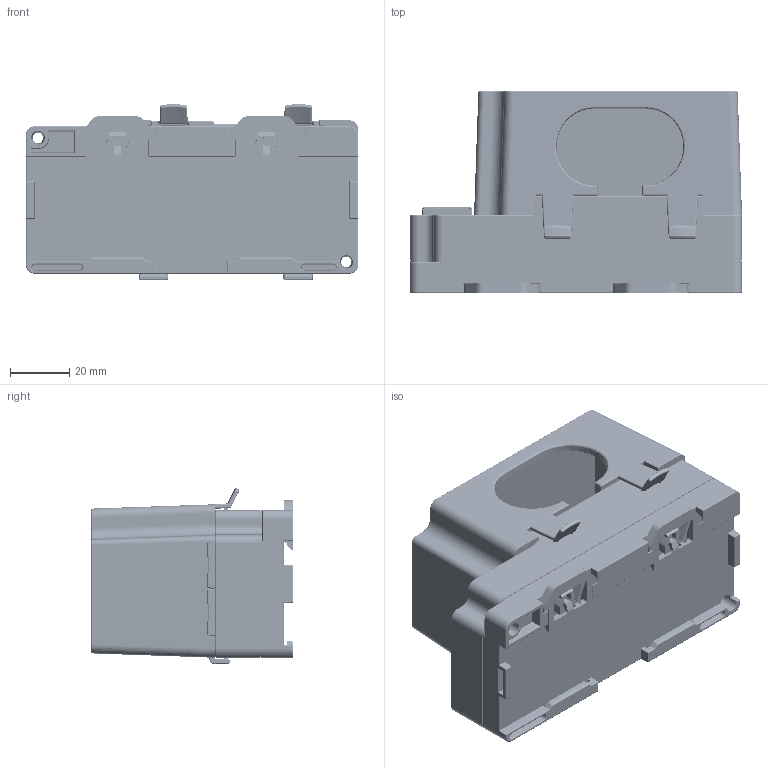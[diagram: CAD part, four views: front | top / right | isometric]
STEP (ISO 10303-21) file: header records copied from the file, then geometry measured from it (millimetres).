
FILE_DESCRIPTION((''),'2;1');
FILE_NAME('XBF5-16CH_ASM_ASM','2026-05-27T10:25:48',('Administrator'),(''),'CREO PARAMETRIC BY PTC INC, 2022073','CREO PARAMETRIC BY PTC INC, 2022073','');
FILE_SCHEMA(('CONFIG_CONTROL_DESIGN'));
Products named in the file (541): SH870-16-1_20_1; SH870-16-2_18_1; SH870-16-3_7_1; SH870-16_ASM_10_ASM_1_ASM; OPEN_CASCADE_STEP_TRANSLATO-282; BOARD_ASM_1_ASM; SEVS38103003N_1; J1_ASM_1_ASM; HOUSING_1; COVER_1; BASE_1; POLARITY_MARK_1; 150060BS75000_0603_ASM_1_ASM; D1_ASM_1_ASM; MER-16_1; SW1_ASM_1_ASM; R_0603_1_1; R_0603_2_1; R_0603_3_1; R_0603_4_1; R_0603_ASM_1_ASM; R25_ASM_1_ASM; R24_ASM_1_ASM; R23_ASM_1_ASM; R_0402_1_1; R_0402_2_1; R_0402_3_1; R_0402_4_1; R_0402_ASM_1_ASM; R22_ASM_1_ASM; R21_ASM_1_ASM; R20_ASM_1_ASM; R19_ASM_1_ASM; R18_ASM_1_ASM; R17_ASM_1_ASM; R16_ASM_1_ASM; R15_ASM_1_ASM; R14_ASM_1_ASM; R13_ASM_1_ASM; R12_ASM_1_ASM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
Assembly tree (1168 placements, depth 8):
  XBF5-16CH_ASM_ASM
    12-9SH870-16_ASM_ASM_1_ASM
      SH870-16_ASM_10_ASM_1_ASM
        SH870-16-1_20_1
        SH870-16-2_18_1
        SH870-16-3_7_1
      D5224_0_0_3D_ASM_1_ASM
        PCB_ASM_1_ASM
          BOARD_ASM_1_ASM
            OPEN_CASCADE_STEP_TRANSLATO-282
          J1_ASM_1_ASM
            SEVS38103003N_1  x8
          D1_ASM_1_ASM
            150060BS75000_0603_ASM_1_ASM
              HOUSING_1
              COVER_1
              BASE_1  x2
              POLARITY_MARK_1
          SW1_ASM_1_ASM
            MER-16_1
          R25_ASM_1_ASM
            R_0603_ASM_1_ASM
              R_0603_1_1
              R_0603_2_1
              R_0603_3_1
              R_0603_4_1
          R24_ASM_1_ASM
            R_0603_ASM_1_ASM
              R_0603_1_1
              R_0603_2_1
              R_0603_3_1
              R_0603_4_1
          R23_ASM_1_ASM
            R_0603_ASM_1_ASM
              R_0603_1_1
              R_0603_2_1
              R_0603_3_1
              R_0603_4_1
          R22_ASM_1_ASM
            R_0402_ASM_1_ASM
              R_0402_1_1
              R_0402_2_1
              R_0402_3_1
              R_0402_4_1
          R21_ASM_1_ASM
            R_0402_ASM_1_ASM
              R_0402_1_1
              R_0402_2_1
              R_0402_3_1
              R_0402_4_1
          R20_ASM_1_ASM
            R_0603_ASM_1_ASM
              R_0603_1_1
              R_0603_2_1
              R_0603_3_1
              R_0603_4_1
          R19_ASM_1_ASM
            R_0603_ASM_1_ASM
              R_0603_1_1
              R_0603_2_1
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Bounding box: 112.5 x 68.5 x 59.56 mm (x, y, z)
Volume: 104393 mm3; surface area: 144286.7 mm2
Topology: 1677 solids, 1765 shells, 58381 faces, 155251 edges, 100376 vertices
Faces by surface type: plane 34434, extrusion 10870, cylinder 8720, sphere 2268, bspline 1252, torus 476, cone 361
Entity records: 408368 total; most frequent: CARTESIAN_POINT 165116, ORIENTED_EDGE 48650, DIRECTION 48327, EDGE_CURVE 24375, VECTOR 17067, LINE 16442, VERTEX_POINT 15869, AXIS2_PLACEMENT_3D 15630
